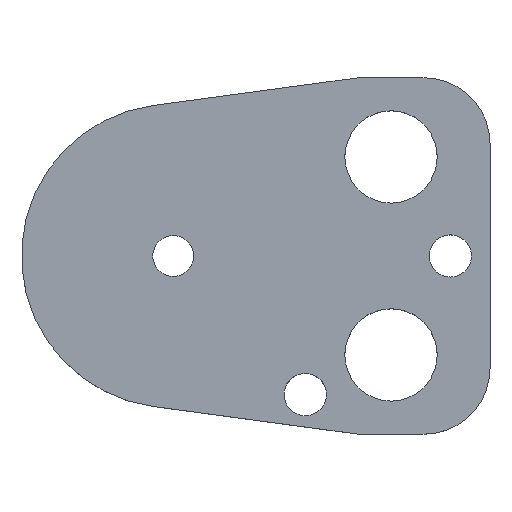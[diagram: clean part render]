
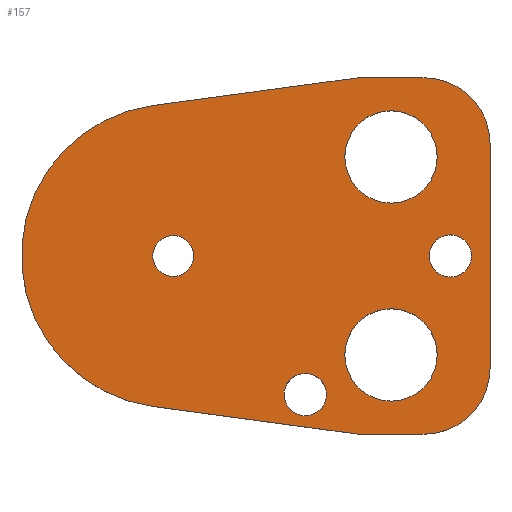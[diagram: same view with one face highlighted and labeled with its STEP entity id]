
A CAD part, top view. The second image highlights one B-rep face of the part: STEP entity #157.
In plain terms, the highlighted planar face has unit normal (0, 0, 1).
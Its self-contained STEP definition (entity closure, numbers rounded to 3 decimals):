
#103=FACE_BOUND('',#207,.T.);
#104=FACE_BOUND('',#208,.T.);
#105=FACE_BOUND('',#209,.T.);
#106=FACE_BOUND('',#210,.T.);
#107=FACE_BOUND('',#211,.T.);
#108=FACE_BOUND('',#212,.T.);
#122=CIRCLE('',#480,10.);
#124=CIRCLE('',#484,10.);
#127=CIRCLE('',#490,23.);
#138=CIRCLE('',#503,3.2);
#139=CIRCLE('',#504,3.2);
#140=CIRCLE('',#505,7.);
#141=CIRCLE('',#506,7.);
#142=CIRCLE('',#507,7.);
#143=CIRCLE('',#508,7.);
#144=CIRCLE('',#509,3.2);
#145=CIRCLE('',#510,3.2);
#146=CIRCLE('',#511,3.1);
#147=CIRCLE('',#512,3.1);
#157=ADVANCED_FACE('',(#103,#104,#105,#106,#107,#108),#174,.T.);
#174=PLANE('',#513);
#207=EDGE_LOOP('',(#273,#274,#275,#276,#277,#278,#279,#280));
#208=EDGE_LOOP('',(#281,#282));
#209=EDGE_LOOP('',(#283,#284));
#210=EDGE_LOOP('',(#285,#286));
#211=EDGE_LOOP('',(#287,#288));
#212=EDGE_LOOP('',(#289,#290));
#273=ORIENTED_EDGE('',*,*,#368,.T.);
#274=ORIENTED_EDGE('',*,*,#372,.T.);
#275=ORIENTED_EDGE('',*,*,#375,.T.);
#276=ORIENTED_EDGE('',*,*,#378,.T.);
#277=ORIENTED_EDGE('',*,*,#381,.T.);
#278=ORIENTED_EDGE('',*,*,#384,.T.);
#279=ORIENTED_EDGE('',*,*,#387,.T.);
#280=ORIENTED_EDGE('',*,*,#390,.T.);
#281=ORIENTED_EDGE('',*,*,#401,.T.);
#282=ORIENTED_EDGE('',*,*,#402,.T.);
#283=ORIENTED_EDGE('',*,*,#403,.T.);
#284=ORIENTED_EDGE('',*,*,#404,.T.);
#285=ORIENTED_EDGE('',*,*,#405,.T.);
#286=ORIENTED_EDGE('',*,*,#406,.T.);
#287=ORIENTED_EDGE('',*,*,#407,.T.);
#288=ORIENTED_EDGE('',*,*,#408,.T.);
#289=ORIENTED_EDGE('',*,*,#409,.T.);
#290=ORIENTED_EDGE('',*,*,#410,.T.);
#332=VERTEX_POINT('',#649);
#333=VERTEX_POINT('',#651);
#336=VERTEX_POINT('',#658);
#338=VERTEX_POINT('',#664);
#340=VERTEX_POINT('',#670);
#342=VERTEX_POINT('',#676);
#344=VERTEX_POINT('',#682);
#346=VERTEX_POINT('',#688);
#357=VERTEX_POINT('',#717);
#358=VERTEX_POINT('',#718);
#359=VERTEX_POINT('',#721);
#360=VERTEX_POINT('',#722);
#361=VERTEX_POINT('',#725);
#362=VERTEX_POINT('',#726);
#363=VERTEX_POINT('',#729);
#364=VERTEX_POINT('',#730);
#365=VERTEX_POINT('',#733);
#366=VERTEX_POINT('',#734);
#368=EDGE_CURVE('',#333,#332,#422,.T.);
#372=EDGE_CURVE('',#332,#336,#426,.T.);
#375=EDGE_CURVE('',#336,#338,#122,.T.);
#378=EDGE_CURVE('',#338,#340,#430,.T.);
#381=EDGE_CURVE('',#340,#342,#124,.T.);
#384=EDGE_CURVE('',#342,#344,#434,.T.);
#387=EDGE_CURVE('',#344,#346,#437,.T.);
#390=EDGE_CURVE('',#346,#333,#127,.T.);
#401=EDGE_CURVE('',#357,#358,#138,.T.);
#402=EDGE_CURVE('',#358,#357,#139,.T.);
#403=EDGE_CURVE('',#359,#360,#140,.T.);
#404=EDGE_CURVE('',#360,#359,#141,.T.);
#405=EDGE_CURVE('',#361,#362,#142,.T.);
#406=EDGE_CURVE('',#362,#361,#143,.T.);
#407=EDGE_CURVE('',#363,#364,#144,.T.);
#408=EDGE_CURVE('',#364,#363,#145,.T.);
#409=EDGE_CURVE('',#365,#366,#146,.T.);
#410=EDGE_CURVE('',#366,#365,#147,.T.);
#422=LINE('',#650,#450);
#426=LINE('',#659,#454);
#430=LINE('',#671,#458);
#434=LINE('',#683,#462);
#437=LINE('',#689,#465);
#450=VECTOR('',#527,1.);
#454=VECTOR('',#533,1.);
#458=VECTOR('',#545,1.);
#462=VECTOR('',#557,1.);
#465=VECTOR('',#562,1.);
#480=AXIS2_PLACEMENT_3D('',#665,#538,#539);
#484=AXIS2_PLACEMENT_3D('',#677,#550,#551);
#490=AXIS2_PLACEMENT_3D('',#693,#568,#569);
#503=AXIS2_PLACEMENT_3D('',#716,#594,#595);
#504=AXIS2_PLACEMENT_3D('',#719,#596,#597);
#505=AXIS2_PLACEMENT_3D('',#720,#598,#599);
#506=AXIS2_PLACEMENT_3D('',#723,#600,#601);
#507=AXIS2_PLACEMENT_3D('',#724,#602,#603);
#508=AXIS2_PLACEMENT_3D('',#727,#604,#605);
#509=AXIS2_PLACEMENT_3D('',#728,#606,#607);
#510=AXIS2_PLACEMENT_3D('',#731,#608,#609);
#511=AXIS2_PLACEMENT_3D('',#732,#610,#611);
#512=AXIS2_PLACEMENT_3D('',#735,#612,#613);
#513=AXIS2_PLACEMENT_3D('',#736,#614,#615);
#527=DIRECTION('',(0.991,-0.134,0.));
#533=DIRECTION('',(1.,0.,0.));
#538=DIRECTION('',(0.,0.,1.));
#539=DIRECTION('',(-0.707,0.707,0.));
#545=DIRECTION('',(0.,1.,0.));
#550=DIRECTION('',(0.,0.,1.));
#551=DIRECTION('',(-0.707,-0.707,0.));
#557=DIRECTION('',(-1.,0.,0.));
#562=DIRECTION('',(-0.991,-0.134,0.));
#568=DIRECTION('',(0.,0.,1.));
#569=DIRECTION('',(1.,0.,0.));
#594=DIRECTION('',(0.,0.,-1.));
#595=DIRECTION('',(-1.,0.,0.));
#596=DIRECTION('',(0.,0.,-1.));
#597=DIRECTION('',(1.,0.,0.));
#598=DIRECTION('',(0.,0.,-1.));
#599=DIRECTION('',(-1.,0.,0.));
#600=DIRECTION('',(0.,0.,-1.));
#601=DIRECTION('',(1.,0.,0.));
#602=DIRECTION('',(0.,0.,-1.));
#603=DIRECTION('',(-1.,0.,0.));
#604=DIRECTION('',(0.,0.,-1.));
#605=DIRECTION('',(1.,0.,0.));
#606=DIRECTION('',(0.,0.,-1.));
#607=DIRECTION('',(-1.,0.,0.));
#608=DIRECTION('',(0.,0.,-1.));
#609=DIRECTION('',(1.,0.,0.));
#610=DIRECTION('',(0.,0.,-1.));
#611=DIRECTION('',(-1.,0.,0.));
#612=DIRECTION('',(0.,0.,-1.));
#613=DIRECTION('',(1.,0.,0.));
#614=DIRECTION('',(0.,0.,1.));
#615=DIRECTION('',(0.991,-0.134,0.));
#649=CARTESIAN_POINT('',(28.,-27.,6.));
#650=CARTESIAN_POINT('',(28.,-27.,6.));
#651=CARTESIAN_POINT('',(-3.085,-22.792,6.));
#658=CARTESIAN_POINT('',(38.,-27.,6.));
#659=CARTESIAN_POINT('',(28.,-27.,6.));
#664=CARTESIAN_POINT('',(48.,-17.,6.));
#665=CARTESIAN_POINT('',(38.,-17.,6.));
#670=CARTESIAN_POINT('',(48.,17.,6.));
#671=CARTESIAN_POINT('',(48.,17.,6.));
#676=CARTESIAN_POINT('',(38.,27.,6.));
#677=CARTESIAN_POINT('',(38.,17.,6.));
#682=CARTESIAN_POINT('',(28.,27.,6.));
#683=CARTESIAN_POINT('',(28.,27.,6.));
#688=CARTESIAN_POINT('',(-3.085,22.792,6.));
#689=CARTESIAN_POINT('',(28.,27.,6.));
#693=CARTESIAN_POINT('',(0.,0.,6.));
#716=CARTESIAN_POINT('',(42.,0.,6.));
#717=CARTESIAN_POINT('',(42.,3.2,6.));
#718=CARTESIAN_POINT('',(42.,-3.2,6.));
#719=CARTESIAN_POINT('',(42.,0.,6.));
#720=CARTESIAN_POINT('',(33.,15.,6.));
#721=CARTESIAN_POINT('',(33.,22.,6.));
#722=CARTESIAN_POINT('',(33.,8.,6.));
#723=CARTESIAN_POINT('',(33.,15.,6.));
#724=CARTESIAN_POINT('',(33.,-15.,6.));
#725=CARTESIAN_POINT('',(33.,-8.,6.));
#726=CARTESIAN_POINT('',(33.,-22.,6.));
#727=CARTESIAN_POINT('',(33.,-15.,6.));
#728=CARTESIAN_POINT('',(20.,-21.,6.));
#729=CARTESIAN_POINT('',(20.,-17.8,6.));
#730=CARTESIAN_POINT('',(20.,-24.2,6.));
#731=CARTESIAN_POINT('',(20.,-21.,6.));
#732=CARTESIAN_POINT('',(0.,0.,6.));
#733=CARTESIAN_POINT('',(0.,3.1,6.));
#734=CARTESIAN_POINT('',(0.,-3.1,6.));
#735=CARTESIAN_POINT('',(0.,0.,6.));
#736=CARTESIAN_POINT('',(-3.085,-22.792,6.));
